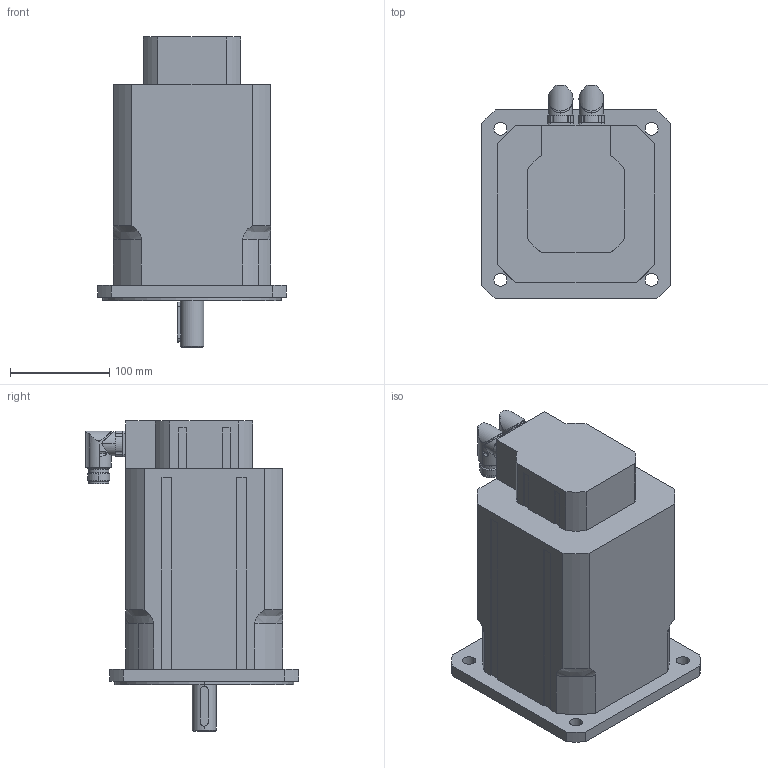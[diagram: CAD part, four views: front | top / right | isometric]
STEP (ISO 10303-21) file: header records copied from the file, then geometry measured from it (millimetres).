
FILE_DESCRIPTION(('STEP AP203'),'2;1');
FILE_NAME('MT6-2200_X.stp','2006-08-28T20:58:42',(''),(''),'2005.2.102','THINKDESIGN','');
FILE_SCHEMA(('CONFIG_CONTROL_DESIGN'));
Length unit declared in the file: millimetre
Bounding box: 190 x 214.5 x 312 mm (x, y, z)
Volume: 5920285 mm3; surface area: 250843.8 mm2
Topology: 3 solids, 3 shells, 258 faces, 685 edges, 443 vertices
Faces by surface type: cylinder 112, plane 108, bspline 38
Full cylindrical faces by diameter (mm): 20 x2
Entity records: 9380 total; most frequent: CARTESIAN_POINT 2860, ORIENTED_EDGE 1366, DIRECTION 1343, EDGE_CURVE 683, AXIS2_PLACEMENT_3D 500, VERTEX_POINT 443, VECTOR 343, LINE 343
